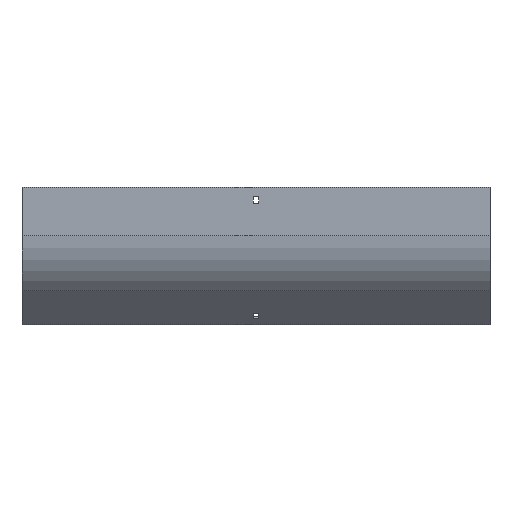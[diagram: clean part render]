
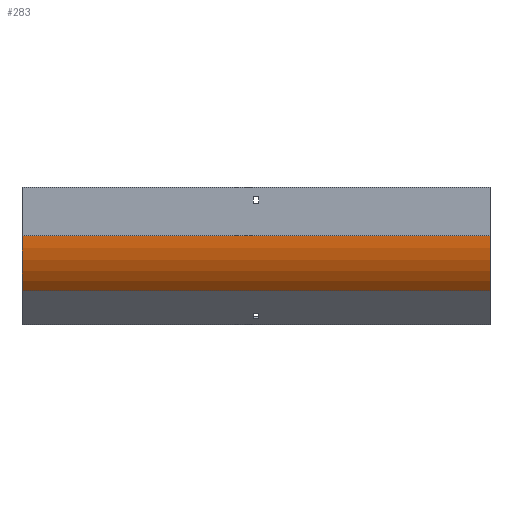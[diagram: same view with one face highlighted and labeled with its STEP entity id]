
A CAD part, front view. The second image highlights one B-rep face of the part: STEP entity #283.
In plain terms, the highlighted cylindrical face has radius 100 mm (diameter 200 mm), a partial arc.
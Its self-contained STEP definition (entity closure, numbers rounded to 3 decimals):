
#2 = VERTEX_POINT ( 'NONE', #1755 ) ;
#83 = CARTESIAN_POINT ( 'NONE',  ( 302., 21., -62.723 ) ) ;
#85 = DIRECTION ( 'NONE',  ( 0., 0., 1. ) ) ;
#204 = DIRECTION ( 'NONE',  ( -1., 0., 0. ) ) ;
#283 = ADVANCED_FACE ( 'NONE', ( #1119 ), #526, .T. ) ;
#379 = VECTOR ( 'NONE', #1744, 1000. ) ;
#386 = DIRECTION ( 'NONE',  ( 1., 0., 0. ) ) ;
#396 = EDGE_LOOP ( 'NONE', ( #1694, #451, #1336, #1507 ) ) ;
#412 = LINE ( 'NONE', #1761, #1348 ) ;
#416 = EDGE_CURVE ( 'NONE', #2, #423, #412, .T. ) ;
#423 = VERTEX_POINT ( 'NONE', #1913 ) ;
#437 = EDGE_CURVE ( 'NONE', #2, #1159, #718, .T. ) ;
#451 = ORIENTED_EDGE ( 'NONE', *, *, #880, .F. ) ;
#526 = CYLINDRICAL_SURFACE ( 'NONE', #1764, 100. ) ;
#553 = DIRECTION ( 'NONE',  ( 1., 0., 0. ) ) ;
#676 = CARTESIAN_POINT ( 'NONE',  ( -302., 21., -62.723 ) ) ;
#718 = CIRCLE ( 'NONE', #815, 100. ) ;
#815 = AXIS2_PLACEMENT_3D ( 'NONE', #83, #553, #1781 ) ;
#859 = CARTESIAN_POINT ( 'NONE',  ( -302., -49.711, -133.434 ) ) ;
#880 = EDGE_CURVE ( 'NONE', #1159, #1688, #1167, .T. ) ;
#1076 = CARTESIAN_POINT ( 'NONE',  ( 302., -49.711, -133.434 ) ) ;
#1099 = CARTESIAN_POINT ( 'NONE',  ( 302., 21., -62.723 ) ) ;
#1114 = CIRCLE ( 'NONE', #1717, 100. ) ;
#1119 = FACE_OUTER_BOUND ( 'NONE', #396, .T. ) ;
#1159 = VERTEX_POINT ( 'NONE', #1076 ) ;
#1167 = LINE ( 'NONE', #1175, #379 ) ;
#1175 = CARTESIAN_POINT ( 'NONE',  ( 302., -49.711, -133.434 ) ) ;
#1314 = DIRECTION ( 'NONE',  ( -1., 0., 0. ) ) ;
#1336 = ORIENTED_EDGE ( 'NONE', *, *, #437, .F. ) ;
#1348 = VECTOR ( 'NONE', #1314, 1000. ) ;
#1395 = DIRECTION ( 'NONE',  ( 0., 0., 1. ) ) ;
#1507 = ORIENTED_EDGE ( 'NONE', *, *, #416, .T. ) ;
#1688 = VERTEX_POINT ( 'NONE', #859 ) ;
#1694 = ORIENTED_EDGE ( 'NONE', *, *, #1816, .T. ) ;
#1717 = AXIS2_PLACEMENT_3D ( 'NONE', #676, #386, #85 ) ;
#1744 = DIRECTION ( 'NONE',  ( -1., 0., 0. ) ) ;
#1755 = CARTESIAN_POINT ( 'NONE',  ( 302., -79., -62.723 ) ) ;
#1761 = CARTESIAN_POINT ( 'NONE',  ( 302., -79., -62.723 ) ) ;
#1764 = AXIS2_PLACEMENT_3D ( 'NONE', #1099, #204, #1395 ) ;
#1781 = DIRECTION ( 'NONE',  ( 0., 0., 1. ) ) ;
#1816 = EDGE_CURVE ( 'NONE', #423, #1688, #1114, .T. ) ;
#1913 = CARTESIAN_POINT ( 'NONE',  ( -302., -79., -62.723 ) ) ;
